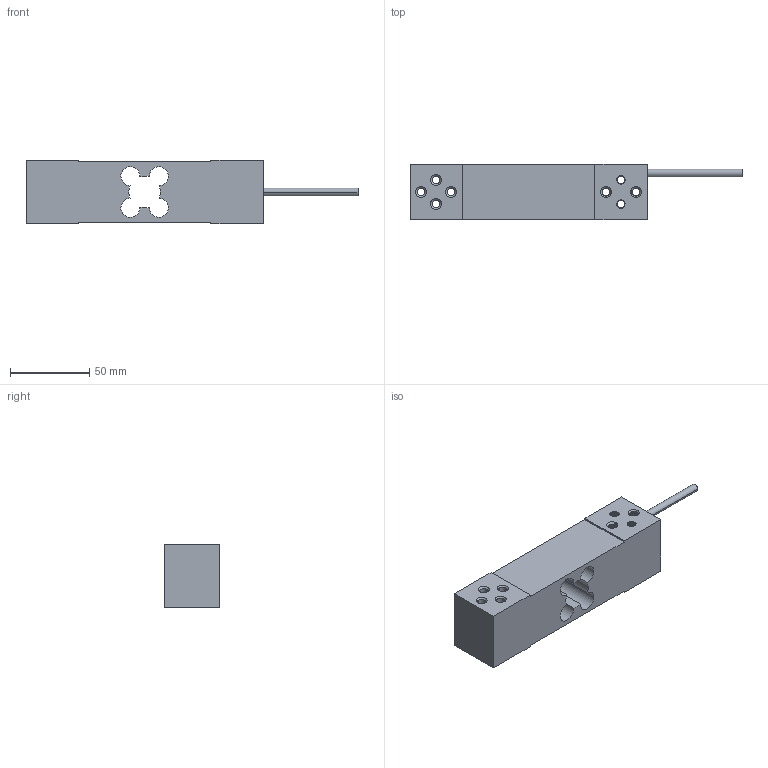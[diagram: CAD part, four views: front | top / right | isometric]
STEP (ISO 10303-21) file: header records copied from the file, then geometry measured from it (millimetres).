
FILE_DESCRIPTION((''),'2;1');
FILE_NAME('29C_WXT','2023-10-19T',('hzcgq'),(''),'PRO/ENGINEER BY PARAMETRIC TECHNOLOGY CORPORATION, 2015070','PRO/ENGINEER BY PARAMETRIC TECHNOLOGY CORPORATION, 2015070','');
FILE_SCHEMA(('CONFIG_CONTROL_DESIGN'));
Length unit declared in the file: millimetre
Products named in the file (1): 29C_WXT
Bounding box: 210 x 35 x 40 mm (x, y, z)
Volume: 173714.8 mm3; surface area: 35931.1 mm2
Topology: 1 solids, 1 shells, 461 faces, 1320 edges, 862 vertices
Faces by surface type: cylinder 322, bspline 92, cone 24, plane 23
Entity records: 35788 total; most frequent: CARTESIAN_POINT 25431, ORIENTED_EDGE 2640, DIRECTION 1364, EDGE_CURVE 1320, VERTEX_POINT 862, B_SPLINE_CURVE_WITH_KNOTS 766, VECTOR 482, LINE 482
